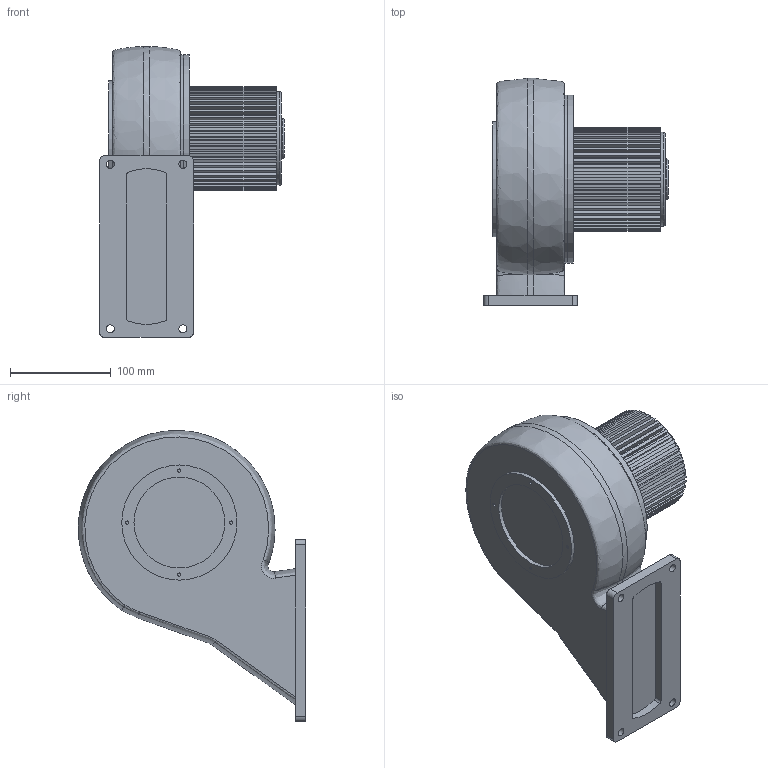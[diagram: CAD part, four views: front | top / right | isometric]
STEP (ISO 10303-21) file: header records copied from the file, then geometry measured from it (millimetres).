
FILE_DESCRIPTION(/* description */ ('Unknown'),/* implementation_level */ '2;1');
FILE_NAME(/* name */ '20200629 TS-203',/* time_stamp */ '2020-06-30T13:50:20+08:00',/* author */ ('å¤§èºè¨­è¨æéå¬å¸'),/* organization */ ('Unknown'),/* preprocessor_version */ 'ST-DEVELOPER v16.7',/* originating_system */ 'DEX',/* authorisation */ $);
FILE_SCHEMA (('AUTOMOTIVE_DESIGN {1 0 10303 214 3 1 1}'));
Length unit declared in the file: millimetre
Products named in the file (1): 20200629 TS-203
Bounding box: 183 x 224.96 x 288.13 mm (x, y, z)
Volume: 3445010.1 mm3; surface area: 240821.4 mm2
Topology: 1 solids, 1 shells, 268 faces, 759 edges, 504 vertices
Faces by surface type: plane 224, cylinder 28, bspline 12, torus 2, cone 2
Full cylindrical faces by diameter (mm): 3.2 x4, 8 x4, 40 x1, 90 x1, 93 x1, 114 x1, 166.266 x2
Entity records: 13587 total; most frequent: CARTESIAN_POINT 6598, ORIENTED_EDGE 1478, DIRECTION 1383, EDGE_CURVE 739, LINE 553, VECTOR 553, VERTEX_POINT 502, AXIS2_PLACEMENT_3D 415
